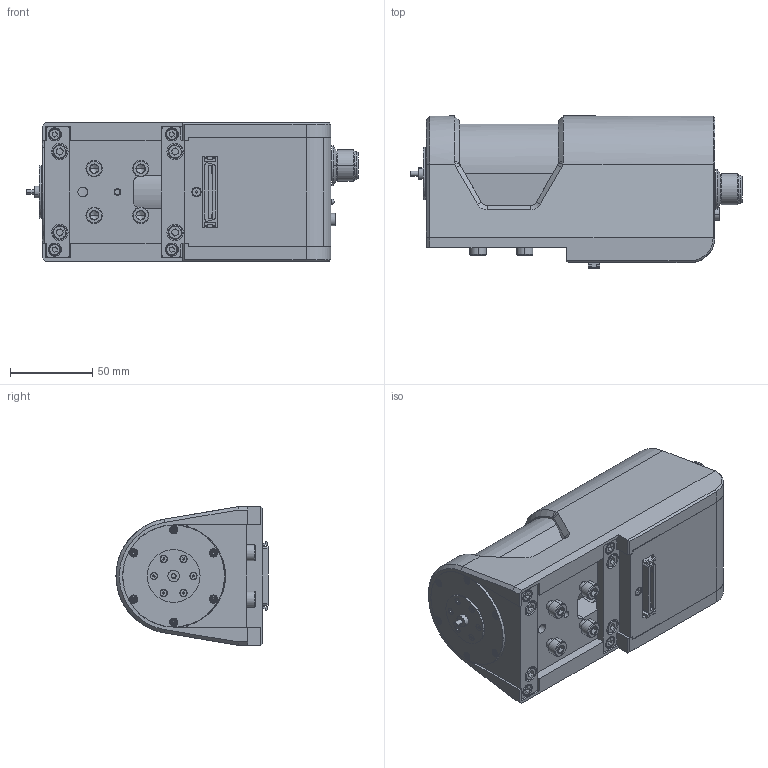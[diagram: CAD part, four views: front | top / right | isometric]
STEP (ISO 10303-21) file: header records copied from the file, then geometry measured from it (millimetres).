
FILE_DESCRIPTION(('HOOPS Exchange Step'),'2;1');
FILE_NAME('C:\Users\matter\AppData\Local\Temp\Alibre Design\27.0.0.27038\export-7F2C7FF4-594E-4FD5-8B15-20351101E9E0.stp','2023-09-26T18:10:01+02:00',('matter'),('Alibre'),'HOOPS Exchange 2023.0','Alibre','Unknown authorisation');
FILE_SCHEMA( ('AP242_MANAGED_MODEL_BASED_3D_ENGINEERING_MIM_LF {1 0 10303 442 1 1 4 }') );
Length unit declared in the file: centimetre
Products named in the file (3): MUT03-0A-00A-Ensemble-EXP2; MUT03-09-002 Capot 43D1
Assembly tree (2 placements, depth 2):
  MUT03-0A-00A-Ensemble-EXP2
    MUT03-0A-00A-Ensemble-EXP2
    MUT03-09-002 Capot 43D1
Bounding box: 201.5 x 92.27 x 84 mm (x, y, z)
Volume: 177452.1 mm3; surface area: 172522.4 mm2
Topology: 1 solids, 4380 shells, 4931 faces, 24382 edges, 23419 vertices
Faces by surface type: plane 2150, bspline 1348, cylinder 1014, cone 305, torus 104, sphere 10
Full cylindrical faces by diameter (mm): 2.013 x1, 2.4 x4, 3 x1, 3.242 x4, 5 x1, 6 x1, 16 x3, 50 x1, 54.76 x1, 56 x1
Entity records: 295883 total; most frequent: CARTESIAN_POINT 94349, DIRECTION 35091, ORIENTED_EDGE 25459, EDGE_CURVE 24332, VERTEX_POINT 23431, VECTOR 13415, LINE 13415, AXIS2_PLACEMENT_3D 10838
